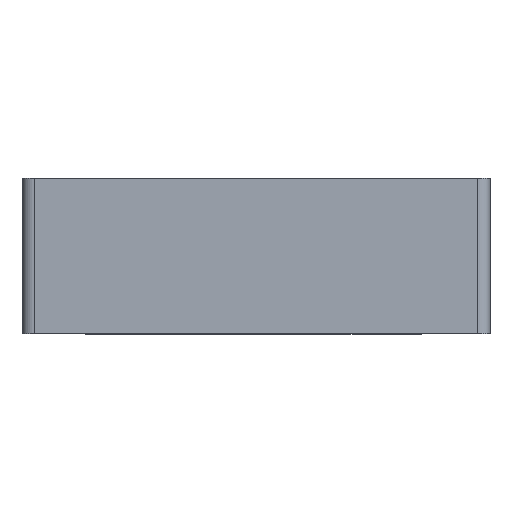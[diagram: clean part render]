
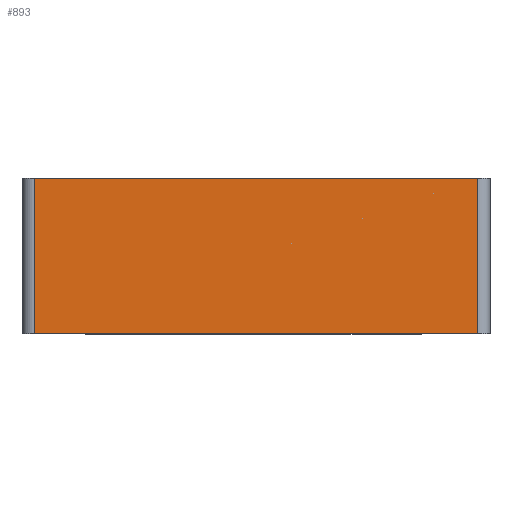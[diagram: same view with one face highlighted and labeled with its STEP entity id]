
A CAD part, front view. The second image highlights one B-rep face of the part: STEP entity #893.
In plain terms, the highlighted planar face has unit normal (0, -1, 0).
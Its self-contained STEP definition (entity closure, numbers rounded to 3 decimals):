
#16 = DIRECTION ( 'NONE',  ( 0., 0., 1. ) ) ;
#28 = CARTESIAN_POINT ( 'NONE',  ( -50.246, -93.152, 25. ) ) ;
#39 = EDGE_CURVE ( 'NONE', #575, #276, #219, .T. ) ;
#67 = EDGE_LOOP ( 'NONE', ( #1070, #668, #316, #857 ) ) ;
#119 = VECTOR ( 'NONE', #1141, 1000. ) ;
#132 = VERTEX_POINT ( 'NONE', #302 ) ;
#151 = LINE ( 'NONE', #834, #1229 ) ;
#174 = CARTESIAN_POINT ( 'NONE',  ( 20.754, -93.152, 25. ) ) ;
#219 = LINE ( 'NONE', #1191, #385 ) ;
#276 = VERTEX_POINT ( 'NONE', #651 ) ;
#280 = DIRECTION ( 'NONE',  ( 1., 0., 0. ) ) ;
#302 = CARTESIAN_POINT ( 'NONE',  ( 20.754, -93.152, 0. ) ) ;
#313 = VECTOR ( 'NONE', #280, 1000. ) ;
#316 = ORIENTED_EDGE ( 'NONE', *, *, #1171, .F. ) ;
#358 = CARTESIAN_POINT ( 'NONE',  ( -50.246, -93.152, 25. ) ) ;
#385 = VECTOR ( 'NONE', #593, 1000. ) ;
#416 = DIRECTION ( 'NONE',  ( 0., 1., 0. ) ) ;
#456 = AXIS2_PLACEMENT_3D ( 'NONE', #28, #416, #16 ) ;
#486 = LINE ( 'NONE', #561, #119 ) ;
#509 = CARTESIAN_POINT ( 'NONE',  ( -50.246, -93.152, 25. ) ) ;
#561 = CARTESIAN_POINT ( 'NONE',  ( 20.754, -93.152, 25. ) ) ;
#575 = VERTEX_POINT ( 'NONE', #509 ) ;
#593 = DIRECTION ( 'NONE',  ( 0., 0., -1. ) ) ;
#636 = EDGE_CURVE ( 'NONE', #276, #132, #151, .T. ) ;
#651 = CARTESIAN_POINT ( 'NONE',  ( -50.246, -93.152, 0. ) ) ;
#668 = ORIENTED_EDGE ( 'NONE', *, *, #818, .F. ) ;
#715 = DIRECTION ( 'NONE',  ( 1., 0., 0. ) ) ;
#818 = EDGE_CURVE ( 'NONE', #1138, #132, #486, .T. ) ;
#834 = CARTESIAN_POINT ( 'NONE',  ( -50.246, -93.152, 0. ) ) ;
#857 = ORIENTED_EDGE ( 'NONE', *, *, #39, .T. ) ;
#893 = ADVANCED_FACE ( 'NONE', ( #1159 ), #1164, .F. ) ;
#1070 = ORIENTED_EDGE ( 'NONE', *, *, #636, .T. ) ;
#1138 = VERTEX_POINT ( 'NONE', #174 ) ;
#1141 = DIRECTION ( 'NONE',  ( 0., 0., -1. ) ) ;
#1159 = FACE_OUTER_BOUND ( 'NONE', #67, .T. ) ;
#1164 = PLANE ( 'NONE',  #456 ) ;
#1171 = EDGE_CURVE ( 'NONE', #575, #1138, #1228, .T. ) ;
#1191 = CARTESIAN_POINT ( 'NONE',  ( -50.246, -93.152, 25. ) ) ;
#1228 = LINE ( 'NONE', #358, #313 ) ;
#1229 = VECTOR ( 'NONE', #715, 1000. ) ;
